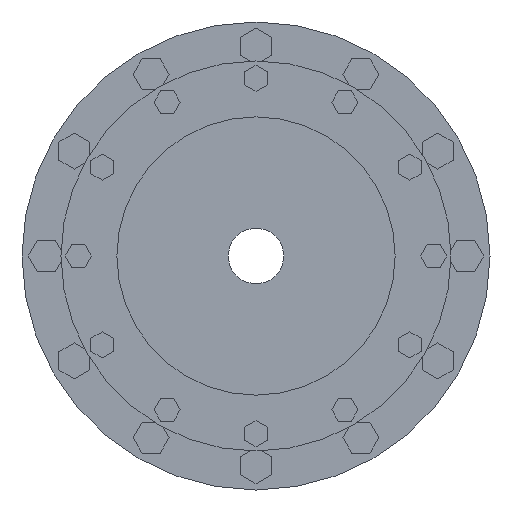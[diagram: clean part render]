
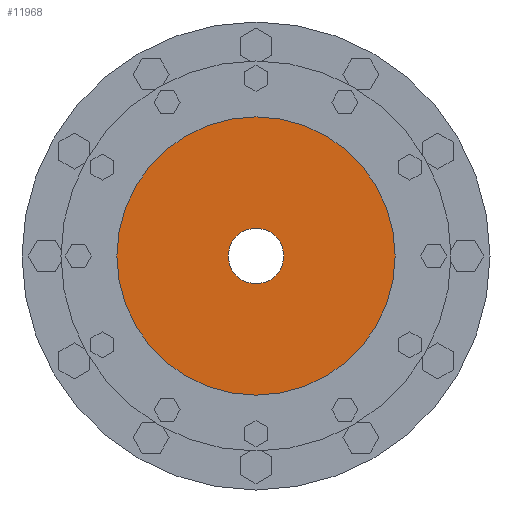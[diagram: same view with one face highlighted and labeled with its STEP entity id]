
A CAD part, left-side view. The second image highlights one B-rep face of the part: STEP entity #11968.
In plain terms, the highlighted planar face has unit normal (-1, 0, 0).
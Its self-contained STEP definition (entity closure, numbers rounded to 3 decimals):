
#11666=CARTESIAN_POINT('',(-129.,0.,0.));
#11667=DIRECTION('',(1.,0.,0.));
#11668=DIRECTION('',(0.,1.,0.));
#11669=AXIS2_PLACEMENT_3D('',#11666,#11667,#11668);
#11745=CARTESIAN_POINT('',(-129.,0.,0.));
#11746=DIRECTION('',(-1.,0.,0.));
#11747=DIRECTION('',(0.,1.,0.));
#11748=AXIS2_PLACEMENT_3D('',#11745,#11746,#11747);
#11750=CARTESIAN_POINT('',(-129.,0.,0.));
#11751=DIRECTION('',(1.,0.,0.));
#11752=DIRECTION('',(0.,1.,0.));
#11753=AXIS2_PLACEMENT_3D('',#11750,#11751,#11752);
#11764=CARTESIAN_POINT('',(-129.,0.,0.));
#11765=DIRECTION('',(-1.,0.,0.));
#11766=DIRECTION('',(0.,1.,0.));
#11767=AXIS2_PLACEMENT_3D('',#11764,#11765,#11766);
#11773=CARTESIAN_POINT('',(-129.,16.,0.));
#11774=CARTESIAN_POINT('',(-129.,-16.,0.));
#11775=VERTEX_POINT('',#11773);
#11776=VERTEX_POINT('',#11774);
#11777=CARTESIAN_POINT('',(-129.,80.25,0.));
#11778=CARTESIAN_POINT('',(-129.,-80.25,0.));
#11779=VERTEX_POINT('',#11777);
#11780=VERTEX_POINT('',#11778);
#11954=CARTESIAN_POINT('',(-129.,0.,0.));
#11955=DIRECTION('',(1.,0.,0.));
#11956=DIRECTION('',(0.,-1.,0.));
#11957=AXIS2_PLACEMENT_3D('',#11954,#11955,#11956);
#11958=PLANE('',#11957);
#11959=ORIENTED_EDGE('',*,*,#11936,.F.);
#11960=ORIENTED_EDGE('',*,*,#11949,.T.);
#11961=EDGE_LOOP('',(#11959,#11960));
#11962=FACE_OUTER_BOUND('',#11961,.F.);
#11963=ORIENTED_EDGE('',*,*,#11814,.F.);
#11965=ORIENTED_EDGE('',*,*,#11964,.T.);
#11966=EDGE_LOOP('',(#11963,#11965));
#11967=FACE_BOUND('',#11966,.F.);
#11968=ADVANCED_FACE('',(#11962,#11967),#11958,.F.);
#11670=CIRCLE('',#11669,16.);
#11749=CIRCLE('',#11748,80.25);
#11754=CIRCLE('',#11753,80.25);
#11768=CIRCLE('',#11767,16.);
#11814=EDGE_CURVE('',#11775,#11776,#11670,.T.);
#11936=EDGE_CURVE('',#11779,#11780,#11749,.T.);
#11949=EDGE_CURVE('',#11779,#11780,#11754,.T.);
#11964=EDGE_CURVE('',#11775,#11776,#11768,.T.);
